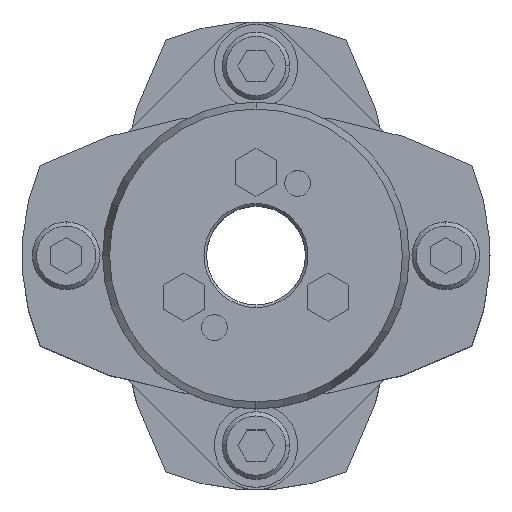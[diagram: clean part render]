
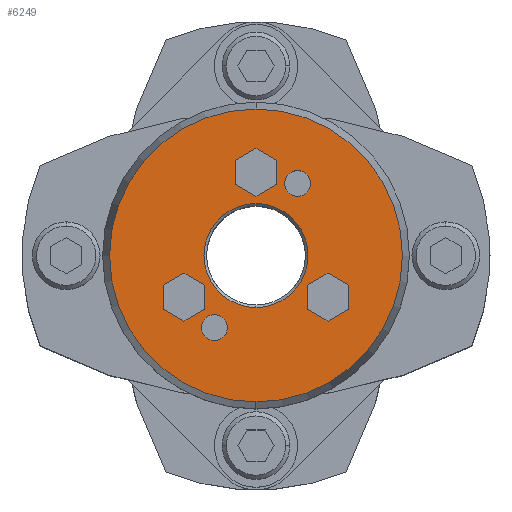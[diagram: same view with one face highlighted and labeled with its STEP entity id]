
A CAD part, top view. The second image highlights one B-rep face of the part: STEP entity #6249.
In plain terms, the highlighted planar face has unit normal (0, 0, 1).
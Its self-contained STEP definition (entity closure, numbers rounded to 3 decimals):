
#1677=CARTESIAN_POINT('',(0.,10.,52.0));
#1678=VERTEX_POINT('',#1677);
#1694=CARTESIAN_POINT('',(0.,-10.,52.0));
#1695=VERTEX_POINT('',#1694);
#1702=CARTESIAN_POINT('',(0.,0.,52.0));
#1703=DIRECTION('',(0.0,0.0,1.0));
#1704=DIRECTION('',(0.0,1.0,0.0));
#1705=AXIS2_PLACEMENT_3D('',#1702,#1703,#1704);
#1706=CIRCLE('',#1705,10.0);
#1707=EDGE_CURVE('',#1695,#1678,#1706,.T.);
#1865=CARTESIAN_POINT('',(0.,-28.16,52.0));
#1866=VERTEX_POINT('',#1865);
#1873=CARTESIAN_POINT('',(0.,28.16,52.0));
#1874=VERTEX_POINT('',#1873);
#1875=CARTESIAN_POINT('',(0.,0.,52.0));
#1876=DIRECTION('',(0.0,0.0,-1.0));
#1877=DIRECTION('',(0.0,-1.0,0.0));
#1878=AXIS2_PLACEMENT_3D('',#1875,#1876,#1877);
#1879=CIRCLE('',#1878,28.16);
#1880=EDGE_CURVE('',#1866,#1874,#1879,.T.);
#2123=CARTESIAN_POINT('',(8.,16.356,52.0));
#2124=VERTEX_POINT('',#2123);
#2140=CARTESIAN_POINT('',(8.,11.356,52.0));
#2141=VERTEX_POINT('',#2140);
#2148=CARTESIAN_POINT('',(8.,13.856,52.0));
#2149=DIRECTION('',(0.0,0.0,-1.0));
#2150=DIRECTION('',(0.0,1.0,0.0));
#2151=AXIS2_PLACEMENT_3D('',#2148,#2149,#2150);
#2152=CIRCLE('',#2151,2.5);
#2153=EDGE_CURVE('',#2124,#2141,#2152,.T.);
#2165=CARTESIAN_POINT('',(-8.,-11.356,52.0));
#2166=VERTEX_POINT('',#2165);
#2182=CARTESIAN_POINT('',(-8.,-16.356,52.0));
#2183=VERTEX_POINT('',#2182);
#2190=CARTESIAN_POINT('',(-8.,-13.856,52.0));
#2191=DIRECTION('',(0.0,0.0,-1.0));
#2192=DIRECTION('',(0.0,1.0,0.0));
#2193=AXIS2_PLACEMENT_3D('',#2190,#2191,#2192);
#2194=CIRCLE('',#2193,2.5);
#2195=EDGE_CURVE('',#2166,#2183,#2194,.T.);
#4765=CARTESIAN_POINT('',(13.856,-3.381,52.0));
#4766=VERTEX_POINT('',#4765);
#4773=CARTESIAN_POINT('',(9.856,-5.691,52.0));
#4774=VERTEX_POINT('',#4773);
#4775=CARTESIAN_POINT('',(9.856,-5.691,52.0));
#4776=DIRECTION('',(0.866,0.5,0.0));
#4777=VECTOR('',#4776,4.619);
#4778=LINE('',#4775,#4777);
#4779=EDGE_CURVE('',#4774,#4766,#4778,.T.);
#4803=CARTESIAN_POINT('',(17.856,-5.691,52.0));
#4804=VERTEX_POINT('',#4803);
#4811=CARTESIAN_POINT('',(13.856,-3.381,52.0));
#4812=DIRECTION('',(0.866,-0.5,0.0));
#4813=VECTOR('',#4812,4.619);
#4814=LINE('',#4811,#4813);
#4815=EDGE_CURVE('',#4766,#4804,#4814,.T.);
#4834=CARTESIAN_POINT('',(17.856,-10.309,52.0));
#4835=VERTEX_POINT('',#4834);
#4842=CARTESIAN_POINT('',(17.856,-5.691,52.0));
#4843=DIRECTION('',(0.0,-1.0,0.0));
#4844=VECTOR('',#4843,4.619);
#4845=LINE('',#4842,#4844);
#4846=EDGE_CURVE('',#4804,#4835,#4845,.T.);
#4865=CARTESIAN_POINT('',(13.856,-12.619,52.0));
#4866=VERTEX_POINT('',#4865);
#4873=CARTESIAN_POINT('',(17.856,-10.309,52.0));
#4874=DIRECTION('',(-0.866,-0.5,0.0));
#4875=VECTOR('',#4874,4.619);
#4876=LINE('',#4873,#4875);
#4877=EDGE_CURVE('',#4835,#4866,#4876,.T.);
#4896=CARTESIAN_POINT('',(9.856,-10.309,52.0));
#4897=VERTEX_POINT('',#4896);
#4904=CARTESIAN_POINT('',(13.856,-12.619,52.0));
#4905=DIRECTION('',(-0.866,0.5,0.0));
#4906=VECTOR('',#4905,4.619);
#4907=LINE('',#4904,#4906);
#4908=EDGE_CURVE('',#4866,#4897,#4907,.T.);
#4926=CARTESIAN_POINT('',(9.856,-10.309,52.0));
#4927=DIRECTION('',(0.0,1.0,0.0));
#4928=VECTOR('',#4927,4.619);
#4929=LINE('',#4926,#4928);
#4930=EDGE_CURVE('',#4897,#4774,#4929,.T.);
#4965=CARTESIAN_POINT('',(0.,20.619,52.0));
#4966=VERTEX_POINT('',#4965);
#4973=CARTESIAN_POINT('',(-4.,18.309,52.0));
#4974=VERTEX_POINT('',#4973);
#4975=CARTESIAN_POINT('',(-4.,18.309,52.0));
#4976=DIRECTION('',(0.866,0.5,0.0));
#4977=VECTOR('',#4976,4.619);
#4978=LINE('',#4975,#4977);
#4979=EDGE_CURVE('',#4974,#4966,#4978,.T.);
#5003=CARTESIAN_POINT('',(4.,18.309,52.0));
#5004=VERTEX_POINT('',#5003);
#5011=CARTESIAN_POINT('',(0.,20.619,52.0));
#5012=DIRECTION('',(0.866,-0.5,0.0));
#5013=VECTOR('',#5012,4.619);
#5014=LINE('',#5011,#5013);
#5015=EDGE_CURVE('',#4966,#5004,#5014,.T.);
#5034=CARTESIAN_POINT('',(4.,13.691,52.0));
#5035=VERTEX_POINT('',#5034);
#5042=CARTESIAN_POINT('',(4.,18.309,52.0));
#5043=DIRECTION('',(0.0,-1.0,0.0));
#5044=VECTOR('',#5043,4.619);
#5045=LINE('',#5042,#5044);
#5046=EDGE_CURVE('',#5004,#5035,#5045,.T.);
#5065=CARTESIAN_POINT('',(0.,11.381,52.0));
#5066=VERTEX_POINT('',#5065);
#5073=CARTESIAN_POINT('',(4.,13.691,52.0));
#5074=DIRECTION('',(-0.866,-0.5,0.0));
#5075=VECTOR('',#5074,4.619);
#5076=LINE('',#5073,#5075);
#5077=EDGE_CURVE('',#5035,#5066,#5076,.T.);
#5096=CARTESIAN_POINT('',(-4.,13.691,52.0));
#5097=VERTEX_POINT('',#5096);
#5104=CARTESIAN_POINT('',(0.,11.381,52.0));
#5105=DIRECTION('',(-0.866,0.5,0.0));
#5106=VECTOR('',#5105,4.619);
#5107=LINE('',#5104,#5106);
#5108=EDGE_CURVE('',#5066,#5097,#5107,.T.);
#5126=CARTESIAN_POINT('',(-4.,13.691,52.0));
#5127=DIRECTION('',(0.0,1.0,0.0));
#5128=VECTOR('',#5127,4.619);
#5129=LINE('',#5126,#5128);
#5130=EDGE_CURVE('',#5097,#4974,#5129,.T.);
#5165=CARTESIAN_POINT('',(-13.856,-3.381,52.0));
#5166=VERTEX_POINT('',#5165);
#5173=CARTESIAN_POINT('',(-17.856,-5.691,52.0));
#5174=VERTEX_POINT('',#5173);
#5175=CARTESIAN_POINT('',(-17.856,-5.691,52.0));
#5176=DIRECTION('',(0.866,0.5,0.0));
#5177=VECTOR('',#5176,4.619);
#5178=LINE('',#5175,#5177);
#5179=EDGE_CURVE('',#5174,#5166,#5178,.T.);
#5203=CARTESIAN_POINT('',(-9.856,-5.691,52.0));
#5204=VERTEX_POINT('',#5203);
#5211=CARTESIAN_POINT('',(-13.856,-3.381,52.0));
#5212=DIRECTION('',(0.866,-0.5,0.0));
#5213=VECTOR('',#5212,4.619);
#5214=LINE('',#5211,#5213);
#5215=EDGE_CURVE('',#5166,#5204,#5214,.T.);
#5234=CARTESIAN_POINT('',(-9.856,-10.309,52.0));
#5235=VERTEX_POINT('',#5234);
#5242=CARTESIAN_POINT('',(-9.856,-5.691,52.0));
#5243=DIRECTION('',(0.0,-1.0,0.0));
#5244=VECTOR('',#5243,4.619);
#5245=LINE('',#5242,#5244);
#5246=EDGE_CURVE('',#5204,#5235,#5245,.T.);
#5265=CARTESIAN_POINT('',(-13.856,-12.619,52.0));
#5266=VERTEX_POINT('',#5265);
#5273=CARTESIAN_POINT('',(-9.856,-10.309,52.0));
#5274=DIRECTION('',(-0.866,-0.5,0.0));
#5275=VECTOR('',#5274,4.619);
#5276=LINE('',#5273,#5275);
#5277=EDGE_CURVE('',#5235,#5266,#5276,.T.);
#5296=CARTESIAN_POINT('',(-17.856,-10.309,52.0));
#5297=VERTEX_POINT('',#5296);
#5304=CARTESIAN_POINT('',(-13.856,-12.619,52.0));
#5305=DIRECTION('',(-0.866,0.5,0.0));
#5306=VECTOR('',#5305,4.619);
#5307=LINE('',#5304,#5306);
#5308=EDGE_CURVE('',#5266,#5297,#5307,.T.);
#5326=CARTESIAN_POINT('',(-17.856,-10.309,52.0));
#5327=DIRECTION('',(0.0,1.0,0.0));
#5328=VECTOR('',#5327,4.619);
#5329=LINE('',#5326,#5328);
#5330=EDGE_CURVE('',#5297,#5174,#5329,.T.);
#5356=CARTESIAN_POINT('',(-8.,-13.856,52.0));
#5357=DIRECTION('',(0.0,0.0,-1.0));
#5358=DIRECTION('',(0.0,1.0,0.0));
#5359=AXIS2_PLACEMENT_3D('',#5356,#5357,#5358);
#5360=CIRCLE('',#5359,2.5);
#5361=EDGE_CURVE('',#2183,#2166,#5360,.T.);
#5390=CARTESIAN_POINT('',(8.,13.856,52.0));
#5391=DIRECTION('',(0.0,0.0,-1.0));
#5392=DIRECTION('',(0.0,1.0,0.0));
#5393=AXIS2_PLACEMENT_3D('',#5390,#5391,#5392);
#5394=CIRCLE('',#5393,2.5);
#5395=EDGE_CURVE('',#2141,#2124,#5394,.T.);
#6188=CARTESIAN_POINT('',(0.,0.,52.0));
#6189=DIRECTION('',(0.0,0.0,-1.0));
#6190=DIRECTION('',(0.0,-1.0,0.0));
#6191=AXIS2_PLACEMENT_3D('',#6188,#6189,#6190);
#6192=CIRCLE('',#6191,28.16);
#6193=EDGE_CURVE('',#1874,#1866,#6192,.T.);
#6198=CARTESIAN_POINT('',(0.,2.682,52.0));
#6199=DIRECTION('',(0.0,0.0,1.0));
#6200=DIRECTION('',(0.0,1.0,0.0));
#6201=AXIS2_PLACEMENT_3D('',#6198,#6199,#6200);
#6202=PLANE('',#6201);
#6203=ORIENTED_EDGE('',*,*,#6193,.F.);
#6204=ORIENTED_EDGE('',*,*,#1880,.F.);
#6205=EDGE_LOOP('',(#6203,#6204));
#6206=FACE_OUTER_BOUND('',#6205,.T.);
#6207=ORIENTED_EDGE('',*,*,#4779,.T.);
#6208=ORIENTED_EDGE('',*,*,#4815,.T.);
#6209=ORIENTED_EDGE('',*,*,#4846,.T.);
#6210=ORIENTED_EDGE('',*,*,#4877,.T.);
#6211=ORIENTED_EDGE('',*,*,#4908,.T.);
#6212=ORIENTED_EDGE('',*,*,#4930,.T.);
#6213=EDGE_LOOP('',(#6207,#6208,#6209,#6210,#6211,#6212));
#6214=FACE_BOUND('',#6213,.T.);
#6215=ORIENTED_EDGE('',*,*,#4979,.T.);
#6216=ORIENTED_EDGE('',*,*,#5015,.T.);
#6217=ORIENTED_EDGE('',*,*,#5046,.T.);
#6218=ORIENTED_EDGE('',*,*,#5077,.T.);
#6219=ORIENTED_EDGE('',*,*,#5108,.T.);
#6220=ORIENTED_EDGE('',*,*,#5130,.T.);
#6221=EDGE_LOOP('',(#6215,#6216,#6217,#6218,#6219,#6220));
#6222=FACE_BOUND('',#6221,.T.);
#6223=ORIENTED_EDGE('',*,*,#5179,.T.);
#6224=ORIENTED_EDGE('',*,*,#5215,.T.);
#6225=ORIENTED_EDGE('',*,*,#5246,.T.);
#6226=ORIENTED_EDGE('',*,*,#5277,.T.);
#6227=ORIENTED_EDGE('',*,*,#5308,.T.);
#6228=ORIENTED_EDGE('',*,*,#5330,.T.);
#6229=EDGE_LOOP('',(#6223,#6224,#6225,#6226,#6227,#6228));
#6230=FACE_BOUND('',#6229,.T.);
#6231=ORIENTED_EDGE('',*,*,#2195,.T.);
#6232=ORIENTED_EDGE('',*,*,#5361,.T.);
#6233=EDGE_LOOP('',(#6231,#6232));
#6234=FACE_BOUND('',#6233,.T.);
#6235=ORIENTED_EDGE('',*,*,#2153,.T.);
#6236=ORIENTED_EDGE('',*,*,#5395,.T.);
#6237=EDGE_LOOP('',(#6235,#6236));
#6238=FACE_BOUND('',#6237,.T.);
#6239=ORIENTED_EDGE('',*,*,#1707,.F.);
#6240=CARTESIAN_POINT('',(0.,0.,52.0));
#6241=DIRECTION('',(0.0,0.0,1.0));
#6242=DIRECTION('',(0.0,1.0,0.0));
#6243=AXIS2_PLACEMENT_3D('',#6240,#6241,#6242);
#6244=CIRCLE('',#6243,10.0);
#6245=EDGE_CURVE('',#1678,#1695,#6244,.T.);
#6246=ORIENTED_EDGE('',*,*,#6245,.F.);
#6247=EDGE_LOOP('',(#6239,#6246));
#6248=FACE_BOUND('',#6247,.T.);
#6249=ADVANCED_FACE('',(#6206,#6214,#6222,#6230,#6234,#6238,#6248),#6202,.T.);
